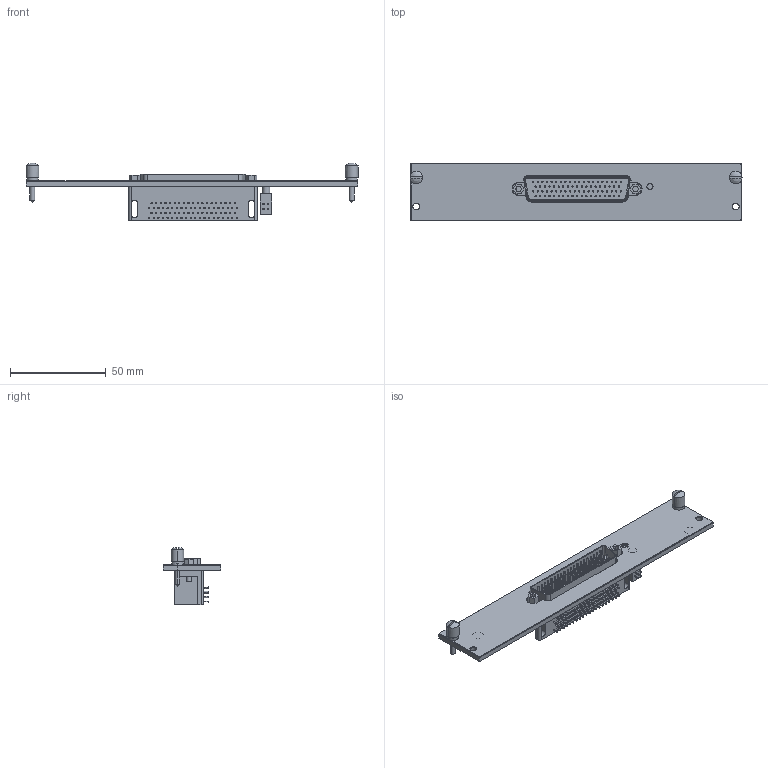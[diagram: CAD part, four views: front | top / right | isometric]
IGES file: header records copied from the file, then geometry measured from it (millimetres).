
Start section:  PTC IGES file: cu_scxi-1167.igs
Global section: file name: cu_scxi-1167.igs; native system: Pro/ENGINEER by Parametric Technology Corporation; preprocessor: 2006080; author: jjorden; organization: Unknown; date: 091125.150633; units: inch
Bounding box: 173.51 x 30.18 x 30.1 mm (x, y, z)
Surface area: 19788.6 mm2 (no closed solid volume)
Topology: 0 solids, 0 shells, 710 faces, 3092 edges, 3088 vertices
Faces by surface type: revolution 428, bspline 282
